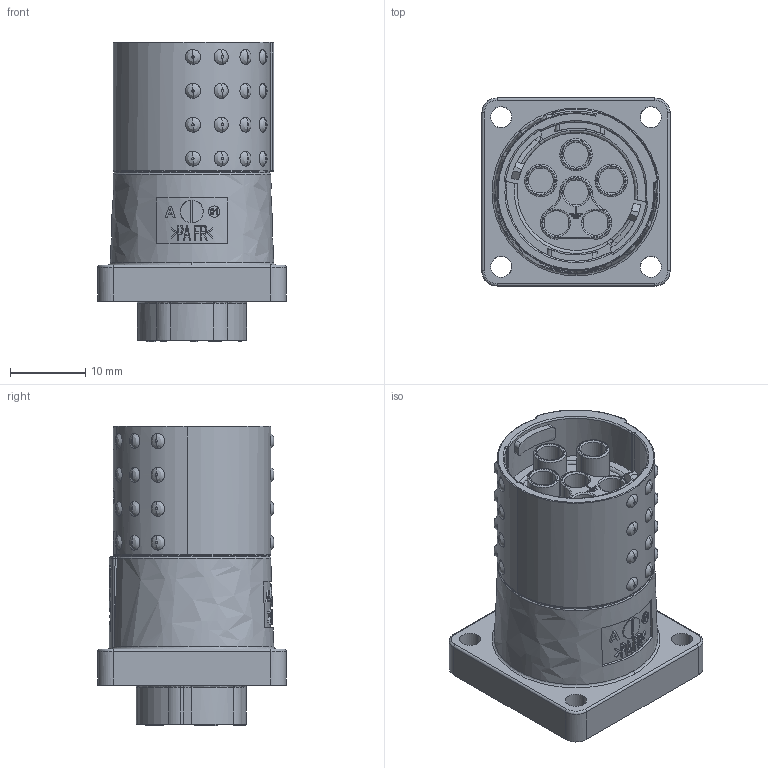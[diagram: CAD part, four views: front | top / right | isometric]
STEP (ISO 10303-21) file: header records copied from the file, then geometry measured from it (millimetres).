
FILE_DESCRIPTION (( 'STEP AP214' ), '1' );
FILE_NAME ('X-TEC 15K Anbau-Bu.STEP', '2020-07-14T13:42:25', ( '' ), ( '' ), 'SwSTEP 2.0', 'SolidWorks 2019', '' );
FILE_SCHEMA (( 'AUTOMOTIVE_DESIGN' ));
Length unit declared in the file: millimetre
Products named in the file (1): X-TEC 15K Anbau-Bu
Bounding box: 25 x 25 x 39.82 mm (x, y, z)
Volume: 12261.6 mm3; surface area: 5443.3 mm2
Topology: 1 solids, 1 shells, 759 faces, 1931 edges, 1262 vertices
Faces by surface type: plane 347, bspline 217, cylinder 193, torus 2
Entity records: 49603 total; most frequent: CARTESIAN_POINT 25024, ORIENTED_EDGE 3852, DIRECTION 2541, EDGE_CURVE 1926, VERTEX_POINT 1262, AXIS2_PLACEMENT_3D 869, EDGE_LOOP 860, LINE 803
